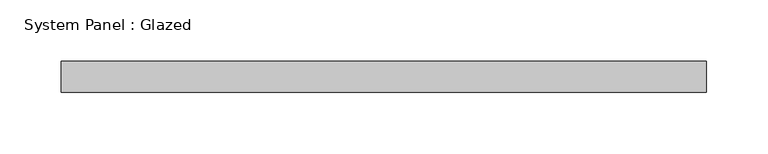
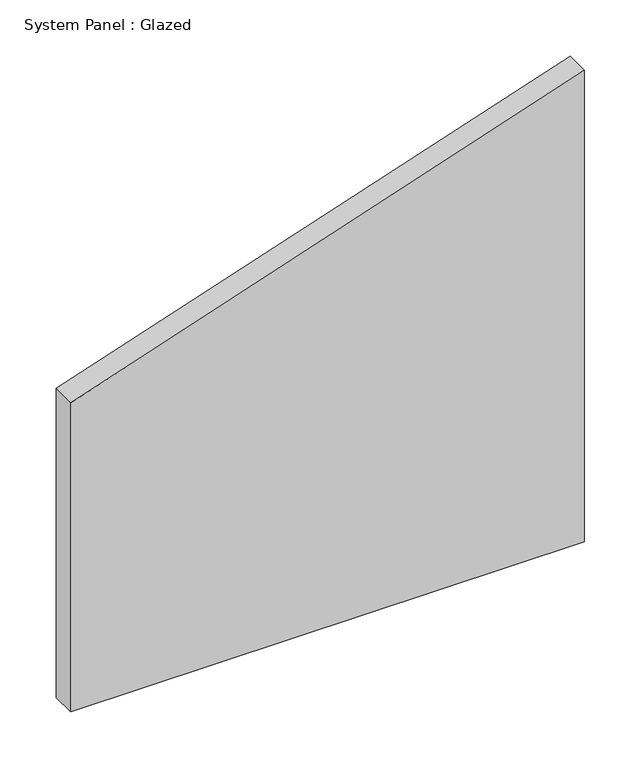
"""IFC4 building model written with IfcOpenShell, lengths in millimetres: plate geometry, System Panel : Glazed."""

from ifc_helpers import new_model, si_unit, frame, origin, place, context, project, spatial, polyline, outline, extrude, source, transform, mapped, element, save


def system_panel_glazed_fbdf944e(model_context):
    return source(origin(), model_context, "Body", "SweptSolid", [
        extrude(outline(polyline([(0.0, -263.525), (0.0, 263.525), (510.9151229, 263.525), (335.2317895, -263.525), (0.0, -263.525)])), frame((0.0, -44.45, 0.0), z_axis=(0.0, 1.0, 0.0), x_axis=(0.0, 0.0, 1.0)), (0.0, 0.0, 1.0), 25.4),
    ])


if __name__ == "__main__":
    model = new_model("IFC4")
    model_context = context("Model", 3, world=origin())
    ifc_project = project(units=[si_unit("LENGTHUNIT", "METRE", prefix="MILLI")], contexts=[model_context])
    site = spatial("IfcSite", under=ifc_project)
    building = spatial("IfcBuilding", under=site)
    placement = place(None, origin())
    system_panel_glazed_shape = system_panel_glazed_fbdf944e(model_context)
    element("IfcPlate", 1, ObjectType="System Panel : Glazed", at=placement, inside=building, context=model_context, shape_type="MappedRepresentation", body=[
        mapped(system_panel_glazed_shape, transform((0.0, 0.0, 0.0), x_axis=(1.0, 0.0, 0.0), y_axis=(0.0, 1.0, 0.0), z_axis=(0.0, 0.0, 1.0))),
    ])
    save(model, "model.ifc")
